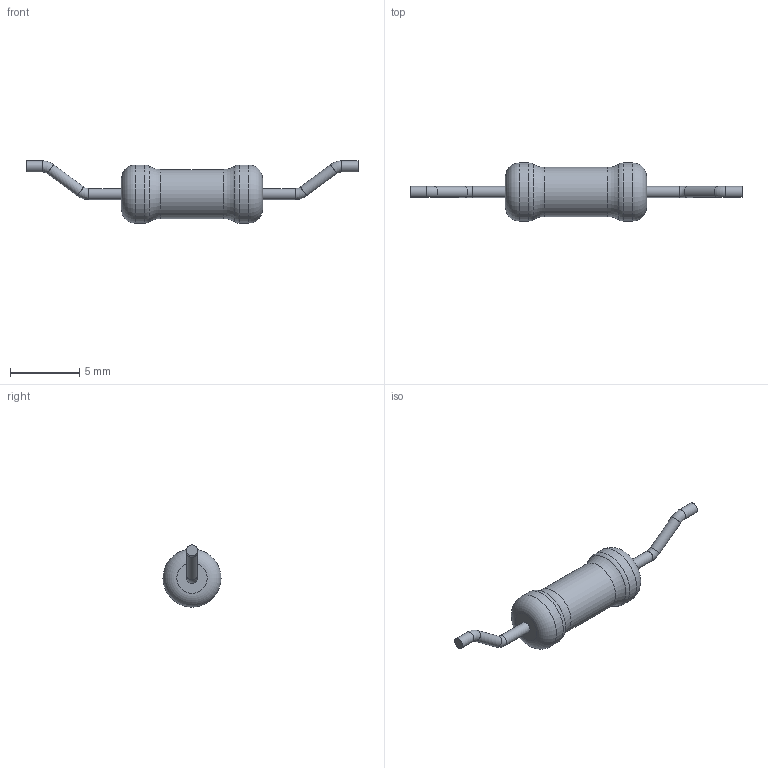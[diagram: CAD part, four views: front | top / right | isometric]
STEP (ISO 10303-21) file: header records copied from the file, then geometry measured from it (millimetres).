
FILE_DESCRIPTION(('STEP AP203'), '1');
FILE_NAME('C2-33-0.5 (3)', '', ('UNSPECIFIED'), ('UNSPECIFIED'), 'ASCON STEP Converter 1.6', 'ASCON Math Kernel', '');
FILE_SCHEMA(('CONFIG_CONTROL_DESIGN'));
Length unit declared in the file: millimetre
Bounding box: 24 x 4.2 x 4.5 mm (x, y, z)
Volume: 120.5 mm3; surface area: 177.4 mm2
Topology: 1 solids, 1 shells, 23 faces, 41 edges, 22 vertices
Faces by surface type: torus 10, cylinder 9, plane 4
Full cylindrical faces by diameter (mm): 0.8 x6, 3.549 x1, 4.2 x2
Entity records: 682 total; most frequent: DIRECTION 92, CARTESIAN_POINT 68, AXIS2_PLACEMENT_3D 46, EDGE_LOOP 44, ORIENTED_EDGE 44, FACE_OUTER_BOUND 38, COLOUR_RGB 24, FILL_AREA_STYLE_COLOUR 24
